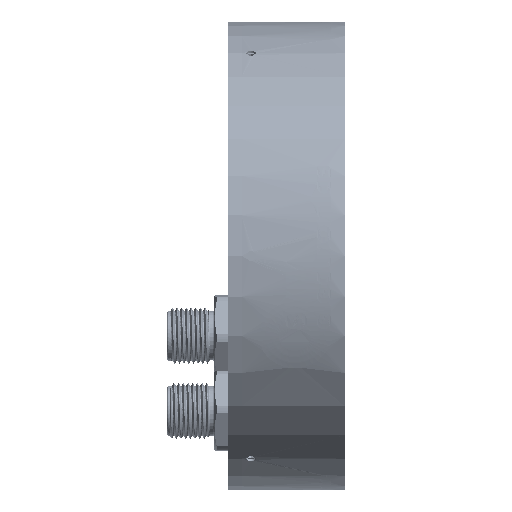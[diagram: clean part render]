
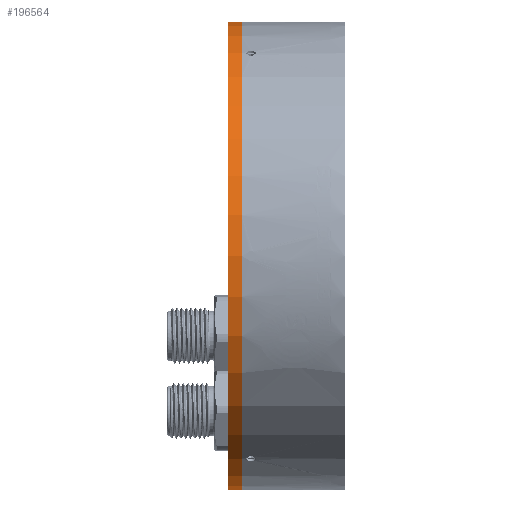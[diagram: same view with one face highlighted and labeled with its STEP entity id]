
A CAD part, front view. The second image highlights one B-rep face of the part: STEP entity #196564.
In plain terms, the highlighted cylindrical face has radius 50 mm (diameter 100 mm), a partial arc.
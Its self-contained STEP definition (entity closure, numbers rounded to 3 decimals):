
#4290 = CARTESIAN_POINT ( 'NONE',  ( 0., 0., 50. ) ) ;
#23574 = DIRECTION ( 'NONE',  ( -1., 0., 0. ) ) ;
#23614 = VERTEX_POINT ( 'NONE', #4290 ) ;
#47997 = CARTESIAN_POINT ( 'NONE',  ( 6., 0., -50. ) ) ;
#51412 = CARTESIAN_POINT ( 'NONE',  ( 0., 0., -50. ) ) ;
#59737 = DIRECTION ( 'NONE',  ( 0., 0., 1. ) ) ;
#61872 = ORIENTED_EDGE ( 'NONE', *, *, #159897, .T. ) ;
#62677 = EDGE_CURVE ( 'NONE', #68176, #282305, #205731, .T. ) ;
#66476 = CARTESIAN_POINT ( 'NONE',  ( -3., 0., -50. ) ) ;
#68176 = VERTEX_POINT ( 'NONE', #51412 ) ;
#68617 = CYLINDRICAL_SURFACE ( 'NONE', #185739, 50. ) ;
#69047 = VERTEX_POINT ( 'NONE', #156757 ) ;
#82294 = CARTESIAN_POINT ( 'NONE',  ( -3., 0., 0. ) ) ;
#85859 = ORIENTED_EDGE ( 'NONE', *, *, #104896, .T. ) ;
#92622 = DIRECTION ( 'NONE',  ( 0., 0., 1. ) ) ;
#97747 = LINE ( 'NONE', #166875, #228056 ) ;
#99934 = AXIS2_PLACEMENT_3D ( 'NONE', #114127, #180247, #160705 ) ;
#104896 = EDGE_CURVE ( 'NONE', #23614, #69047, #97747, .T. ) ;
#114111 = DIRECTION ( 'NONE',  ( -1., 0., 0. ) ) ;
#114127 = CARTESIAN_POINT ( 'NONE',  ( 0., 0., 0. ) ) ;
#114318 = CIRCLE ( 'NONE', #99934, 50. ) ;
#130494 = CIRCLE ( 'NONE', #293412, 50. ) ;
#156757 = CARTESIAN_POINT ( 'NONE',  ( -3., 0., 50. ) ) ;
#159841 = VECTOR ( 'NONE', #114111, 1000. ) ;
#159897 = EDGE_CURVE ( 'NONE', #68176, #23614, #114318, .T. ) ;
#160273 = CARTESIAN_POINT ( 'NONE',  ( 6., 0., 0. ) ) ;
#160705 = DIRECTION ( 'NONE',  ( 0., 0., 1. ) ) ;
#166875 = CARTESIAN_POINT ( 'NONE',  ( 6., 0., 50. ) ) ;
#173923 = DIRECTION ( 'NONE',  ( -1., 0., 0. ) ) ;
#180247 = DIRECTION ( 'NONE',  ( -1., 0., 0. ) ) ;
#185739 = AXIS2_PLACEMENT_3D ( 'NONE', #160273, #23574, #92622 ) ;
#189394 = DIRECTION ( 'NONE',  ( -1., 0., 0. ) ) ;
#196564 = ADVANCED_FACE ( 'NONE', ( #250363 ), #68617, .T. ) ;
#205731 = LINE ( 'NONE', #47997, #159841 ) ;
#211546 = EDGE_CURVE ( 'NONE', #282305, #69047, #130494, .T. ) ;
#228056 = VECTOR ( 'NONE', #189394, 1000. ) ;
#231913 = ORIENTED_EDGE ( 'NONE', *, *, #62677, .F. ) ;
#232188 = EDGE_LOOP ( 'NONE', ( #231913, #61872, #85859, #258095 ) ) ;
#250363 = FACE_OUTER_BOUND ( 'NONE', #232188, .T. ) ;
#258095 = ORIENTED_EDGE ( 'NONE', *, *, #211546, .F. ) ;
#282305 = VERTEX_POINT ( 'NONE', #66476 ) ;
#293412 = AXIS2_PLACEMENT_3D ( 'NONE', #82294, #173923, #59737 ) ;
